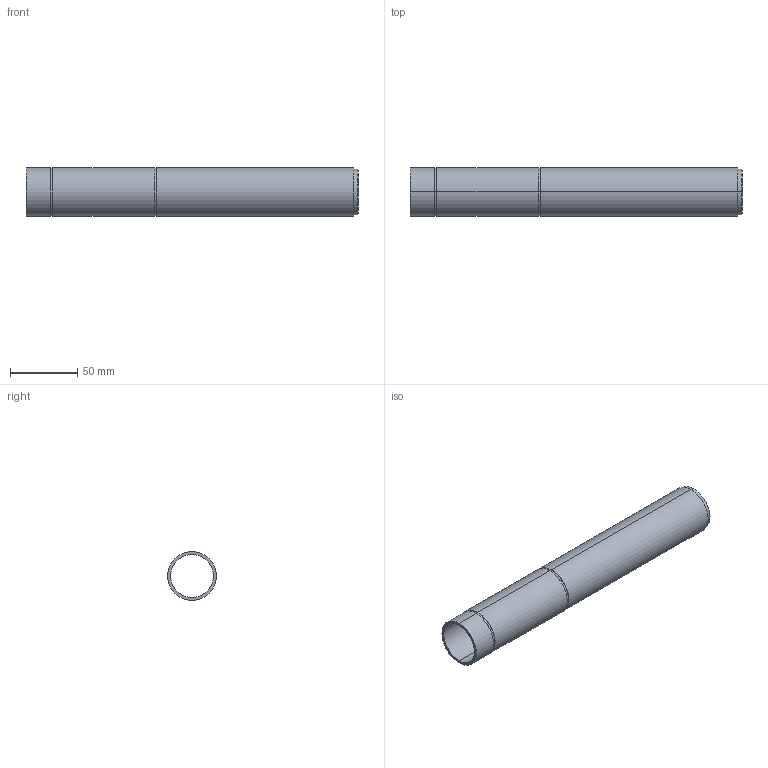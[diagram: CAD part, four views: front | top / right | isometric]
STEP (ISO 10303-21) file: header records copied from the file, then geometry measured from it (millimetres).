
FILE_DESCRIPTION (( 'STEP AP214' ), '1' );
FILE_NAME ('Tube de protection.STEP', '2005-04-07T19:17:19', ( 'frantz' ), ( '' ), 'SwSTEP 2.0', 'SolidWorks 2004104', '' );
FILE_SCHEMA (( 'AUTOMOTIVE_DESIGN' ));
Length unit declared in the file: centimetre
Products named in the file (1): Tube de protection
Bounding box: 246 x 36 x 36 mm (x, y, z)
Volume: 52027.5 mm3; surface area: 53173 mm2
Topology: 1 solids, 1 shells, 21 faces, 42 edges, 28 vertices
Faces by surface type: cylinder 14, plane 7
Entity records: 591 total; most frequent: DIRECTION 114, CARTESIAN_POINT 92, ORIENTED_EDGE 84, AXIS2_PLACEMENT_3D 50, EDGE_CURVE 42, CIRCLE 28, EDGE_LOOP 28, VERTEX_POINT 28
